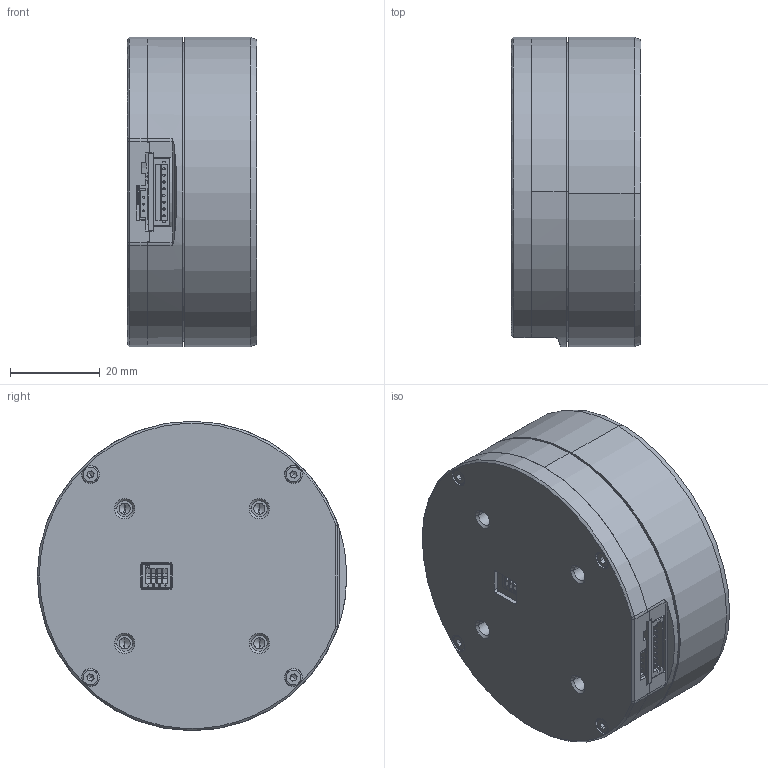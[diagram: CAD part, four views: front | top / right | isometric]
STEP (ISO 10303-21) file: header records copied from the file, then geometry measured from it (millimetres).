
FILE_DESCRIPTION (( 'STEP AP214' ), '1' );
FILE_NAME ('MS7010v2.STEP', '2022-07-26T10:05:11', ( '' ), ( '' ), 'SwSTEP 2.0', 'SolidWorks 2018', '' );
FILE_SCHEMA (( 'AUTOMOTIVE_DESIGN' ));
Length unit declared in the file: millimetre
Products named in the file (2): MS7010v2
Bounding box: 28.9 x 69 x 69 mm (x, y, z)
Surface area: 39789.1 mm2 (no closed solid volume)
Topology: 0 solids, 44 shells, 1259 faces, 3159 edges, 2018 vertices
Faces by surface type: plane 635, cylinder 445, bspline 119, cone 60
Entity records: 54813 total; most frequent: CARTESIAN_POINT 10522, ORIENTED_EDGE 6210, DIRECTION 6174, EDGE_CURVE 3107, AXIS2_PLACEMENT_3D 2134, VERTEX_POINT 2018, VECTOR 1906, LINE 1906
